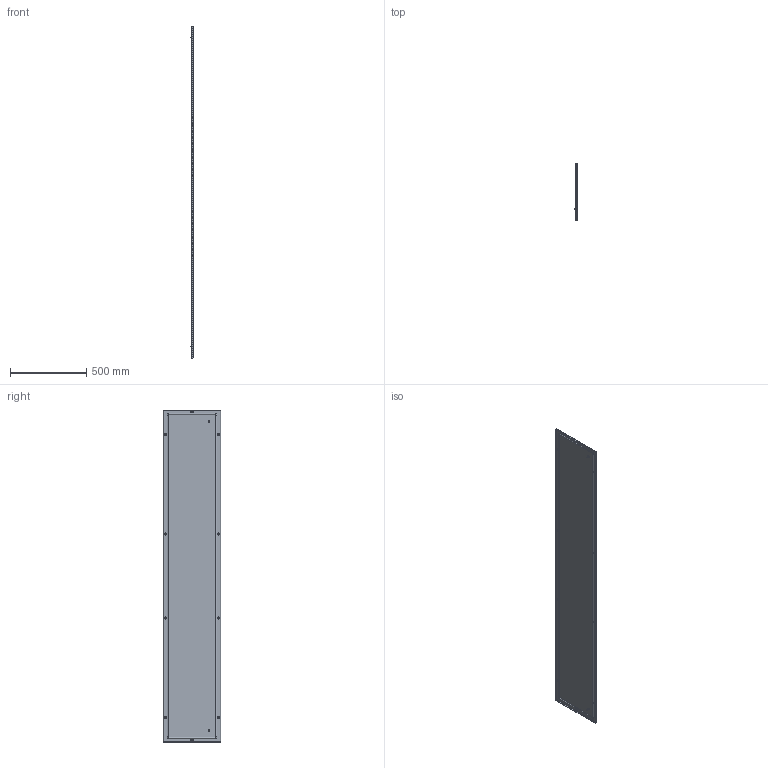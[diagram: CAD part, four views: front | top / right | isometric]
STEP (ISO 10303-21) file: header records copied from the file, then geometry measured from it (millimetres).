
FILE_DESCRIPTION(('STEP AP203'), '1');
FILE_NAME('3302 眈翴錪 捘', '', ('UNSPECIFIED'), ('UNSPECIFIED'), 'C3D Converter', 'C3D Toolkit', '');
FILE_SCHEMA(('CONFIG_CONTROL_DESIGN'));
Length unit declared in the file: millimetre
Products named in the file (4): 3302.220.40 СБ; 3211
Assembly tree (13 placements, depth 2):
  3302.220.40 СБ
    3211
    (unnamed)  x2
    (unnamed)  x10
Bounding box: 17.5 x 373 x 2171 mm (x, y, z)
Volume: 1471483.9 mm3; surface area: 1879700.3 mm2
Topology: 14 solids, 14 shells, 403 faces, 1038 edges, 718 vertices
Faces by surface type: plane 275, cylinder 60, cone 42, torus 26
Full cylindrical faces by diameter (mm): 5 x10, 6 x12, 9.2 x10, 11.5 x4
Entity records: 5703 total; most frequent: CARTESIAN_POINT 1693, DIRECTION 742, ORIENTED_EDGE 556, AXIS2_PLACEMENT_3D 297, EDGE_CURVE 278, EDGE_LOOP 248, VERTEX_POINT 206, ADVANCED_FACE 153
